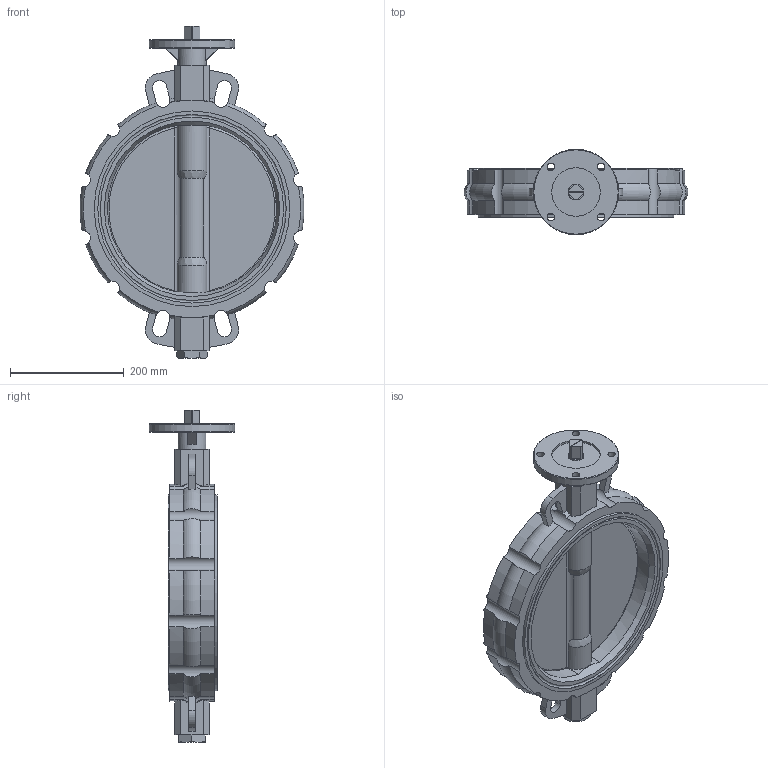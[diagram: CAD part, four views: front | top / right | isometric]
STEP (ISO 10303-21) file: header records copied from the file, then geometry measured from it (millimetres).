
FILE_DESCRIPTION( ( 'STEP AP214' ), '1' );
FILE_NAME( ' ', ' ', ( ' ' ), ( ' ' ), 'PSStep 13.0', 'VISI 18.0', ' ' );
FILE_SCHEMA( ( 'AUTOMOTIVE_DESIGN { 1 0 10303 214 1 1 1 1 }' ) );
Length unit declared in the file: millimetre
Products named in the file (1): 1
Bounding box: 392.94 x 150 x 583 mm (x, y, z)
Volume: 5502538.1 mm3; surface area: 509365.5 mm2
Topology: 1 solids, 1 shells, 231 faces, 674 edges, 448 vertices
Faces by surface type: plane 88, cylinder 85, torus 28, bspline 20, cone 10
Full cylindrical faces by diameter (mm): 13 x4, 28 x1, 50 x1, 85 x1, 150 x1, 331 x2, 343.5 x2
Entity records: 16509 total; most frequent: CARTESIAN_POINT 8760, ORIENTED_EDGE 1288, DIRECTION 1178, EDGE_CURVE 644, AXIS2_PLACEMENT_3D 466, VERTEX_POINT 436, EDGE_LOOP 268, LINE 246
